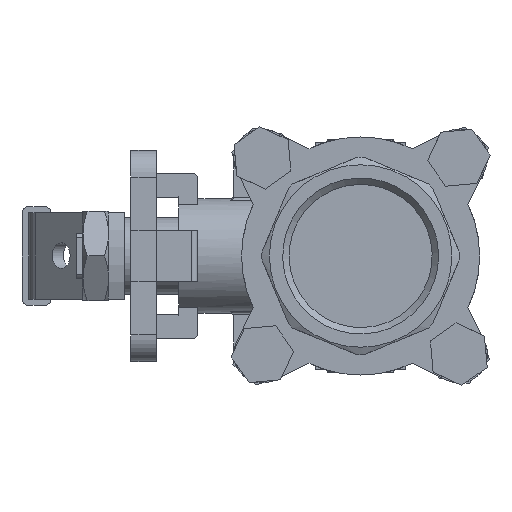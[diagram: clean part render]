
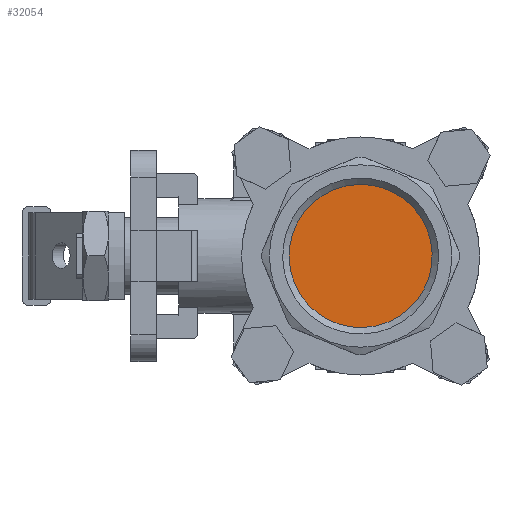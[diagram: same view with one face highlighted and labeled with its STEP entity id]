
A CAD part, left-side view. The second image highlights one B-rep face of the part: STEP entity #32054.
In plain terms, the highlighted planar face has unit normal (-1, 0, 0).
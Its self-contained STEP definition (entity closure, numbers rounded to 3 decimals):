
#30743=CARTESIAN_POINT('',(-39.0,-8.581,-20.716));
#30744=VERTEX_POINT('',#30743);
#30745=CARTESIAN_POINT('',(-39.0,0.0,0.));
#30746=DIRECTION('',(1.0,0.0,0.0));
#30747=DIRECTION('',(0.0,-0.383,-0.924));
#30748=AXIS2_PLACEMENT_3D('',#30745,#30746,#30747);
#30749=CIRCLE('',#30748,22.422);
#30750=EDGE_CURVE('',#30744,#30744,#30749,.T.);
#32046=CARTESIAN_POINT('',(-39.0,0.0,0.));
#32047=DIRECTION('',(1.0,0.0,0.0));
#32048=DIRECTION('',(0.0,-0.383,-0.924));
#32049=AXIS2_PLACEMENT_3D('',#32046,#32047,#32048);
#32050=PLANE('',#32049);
#32051=ORIENTED_EDGE('',*,*,#30750,.F.);
#32052=EDGE_LOOP('',(#32051));
#32053=FACE_OUTER_BOUND('',#32052,.T.);
#32054=ADVANCED_FACE('',(#32053),#32050,.F.);
